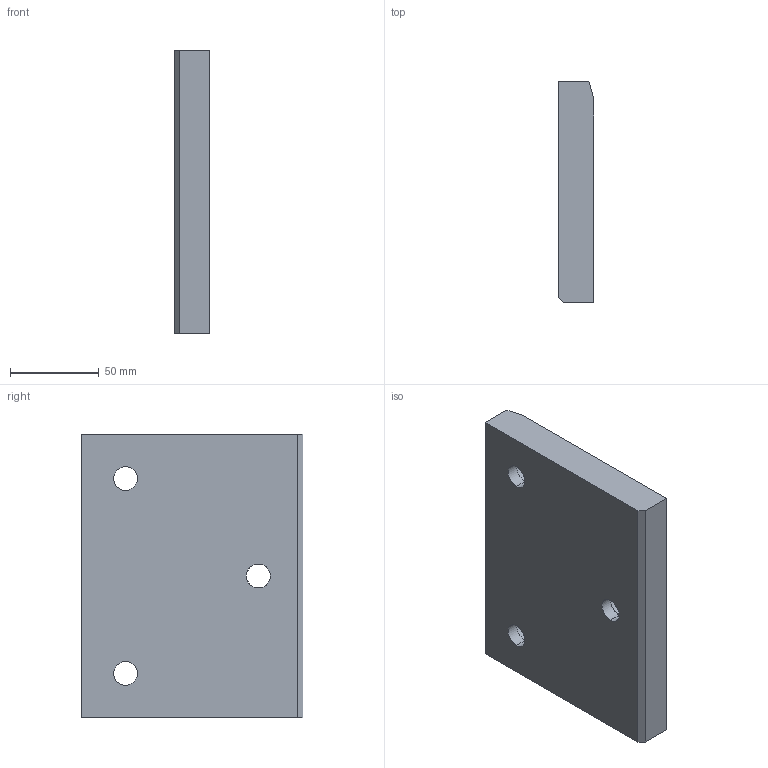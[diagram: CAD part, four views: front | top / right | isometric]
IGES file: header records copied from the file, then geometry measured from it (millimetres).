
Start section: START RECORD GO HERE.
Global section: file name: A915-160X125.igs; native system: DASSAULT SYSTEMES CATIA V5 R20 - www.3ds.com; preprocessor: CATIA Version 5 Release 20 ; author: Utente; organization: NB04-ASUS; date: 20200407.210045; units: millimetre
Bounding box: 20 x 125 x 160 mm (x, y, z)
Surface area: 52961.1 mm2 (no closed solid volume)
Topology: 0 solids, 0 shells, 30 faces, 138 edges, 138 vertices
Faces by surface type: revolution 19, extrusion 11
